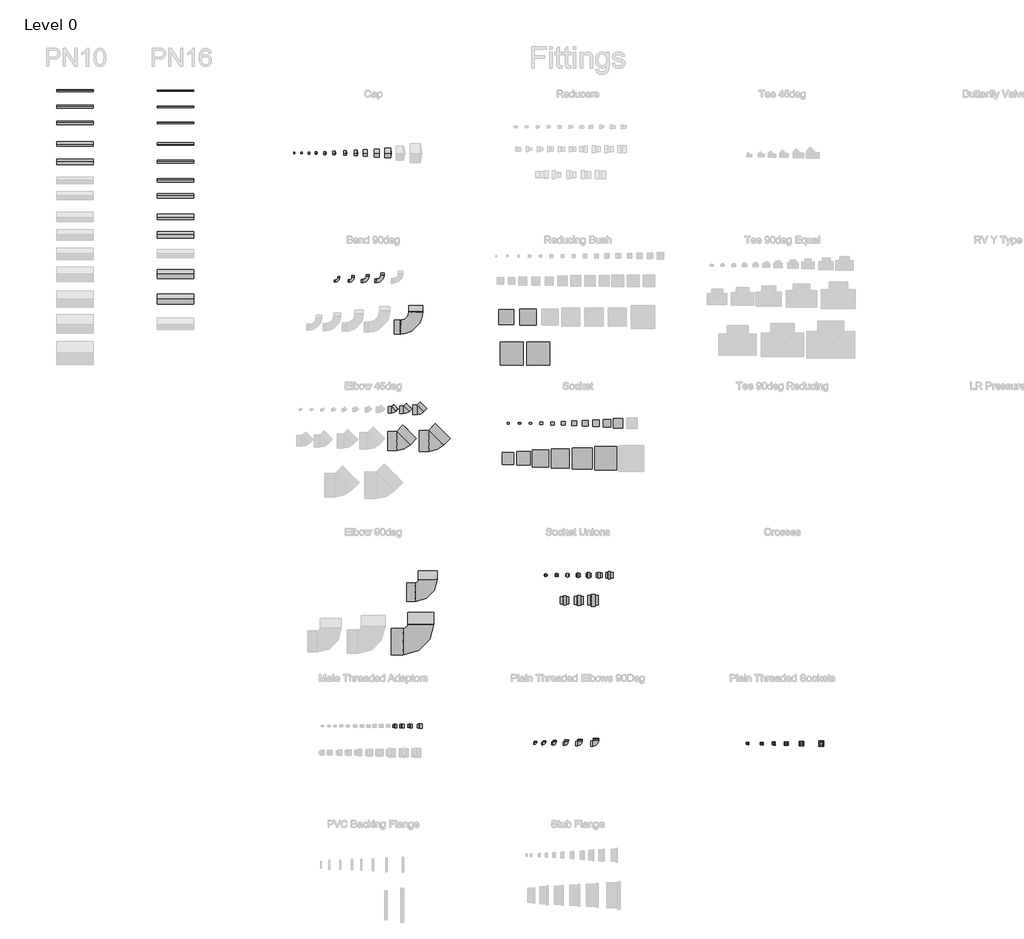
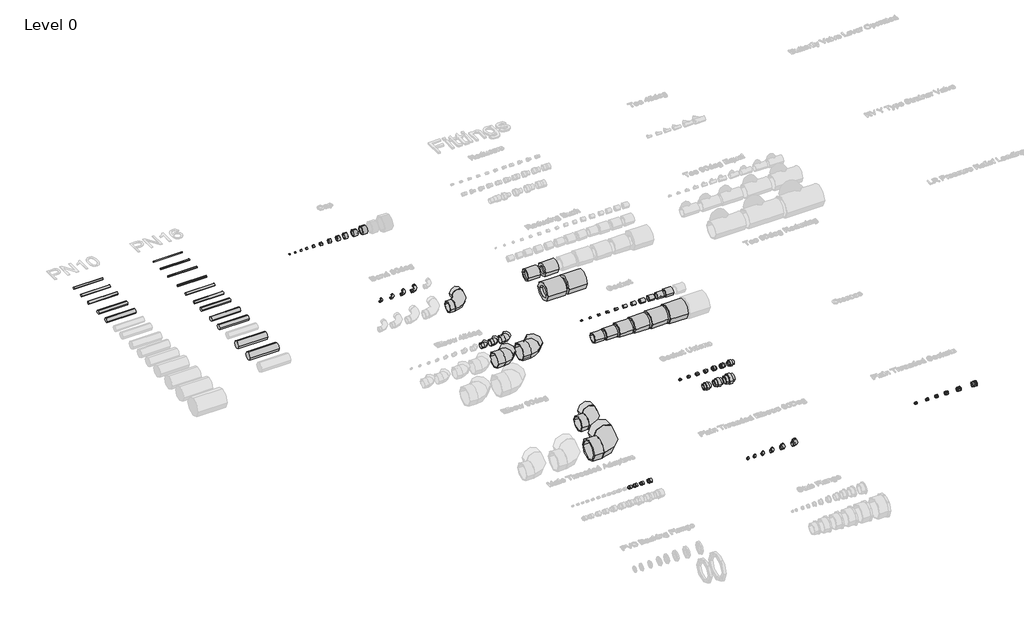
# One storey, part 2 of 12: 86 pipe fittings.
"""IFC4 building model written with IfcOpenShell, lengths in millimetres."""

from ifc_helpers import new_model, si_unit, point, frame, frame_2d, origin, place, context, project, spatial, circle_curve, trimmed, segment, composite_curve, outline, extrude, transform, mapped, element, save
from components import pipe_fitting_00c68761, pipe_fitting_222d3f3d, pipe_fitting_d2d7d88c, pipe_fitting_749d7ce6, pipe_fitting_20mm_7dde9f8e, pipe_fitting_20mm_adb13d9c, pipe_fitting_25mm_f7139507, pipe_fitting_25mm_9b53985b, pipe_fitting_32mm_0fd3095c, pipe_fitting_32mm_a54fa4ee, pipe_fitting_40mm_dacfa39e, pipe_fitting_40mm_57a51237, pipe_fitting_50mm_d2743dc3, pipe_fitting_50mm_ae8cc832, pipe_fitting_63mm_69d4c0ef, pipe_fitting_63mm_4394316e, standard_d3fcaca8, standard_e8015140, standard_f11ee998, standard_07521f27, standard_a297ac4e, standard_ac86aa57, standard_49e3cc04, standard_f3d50f89, standard_ac4fea29, standard_8bf5e5c2, standard_d882ee41, standard_5b41f391, standard_4a92fde6, standard_6448b392, standard_bcb89aef, standard_607f699d, standard_16ee4b1b, standard_b4a90c16, standard_7091a6f5, standard_e8098f89, standard_3f4e5612, standard_c417ec94, standard_f8321bba, standard_0ccd5c58, standard_5e441faa, standard_31ae7f76, standard_5340aa7b, standard_19b72cd3, standard_9e7f003c, standard_99bdedc1, standard_309a048a, standard_23844ad6, standard_ca9f6d66, standard_ecdbaece, standard_c2283256, standard_cd4ecaba, standard_84c32fe4, standard_e92a946d, standard_4b9ebe76, standard_8b6c582c, standard_3ef27521, standard_74011e48, standard_06543b70, standard_79d2ad80, standard_54c42cd6, standard_19096138, standard_dfd1eef8, standard_3389f363, standard_4a5e7ea4, standard_03295fe6, standard_e9653782, standard_6b13ad6d, standard_f582b1da, standard_c68ea25f

model = new_model("IFC4")

# Units and contexts
model_context = context("Model", 3, world=origin())
ifc_project = project(units=[si_unit("LENGTHUNIT", "METRE", prefix="MILLI")], contexts=[model_context])

# Site, building, storey
site = spatial("IfcSite", under=ifc_project)
building = spatial("IfcBuilding", under=site)
storey = spatial("IfcBuildingStorey", under=building, Name="Level 0", Elevation=0.0)

# Pipe fittings
placement = place(None, origin())
pipe_fitting_shape = pipe_fitting_00c68761(model_context)
element("IfcPipeFitting", 1, ObjectType="Durapipe_PipeFitting_PVC_MaleThreadedAdaptors : 50 x 40 x G1", at=placement, inside=storey, context=model_context, shape_type="MappedRepresentation", body=[
    mapped(pipe_fitting_shape, transform((-15945.5809753, 336.5620017, 0.0), x_axis=(1.0, 0.0, 0.0), y_axis=(0.0, 1.0, 0.0), z_axis=(0.0, 0.0, 1.0))),
])
pipe_fitting_2_shape = pipe_fitting_222d3f3d(model_context)
element("IfcPipeFitting", 2, ObjectType="Durapipe_PipeFitting_PVC_MaleThreadedAdaptors : 50 x 40 x G1-1⁄4", at=placement, inside=storey, context=model_context, shape_type="MappedRepresentation", body=[
    mapped(pipe_fitting_2_shape, transform((-15733.9409048, 336.5620017, 0.0), x_axis=(1.0, 0.0, 0.0), y_axis=(0.0, 1.0, 0.0), z_axis=(0.0, 0.0, 1.0))),
])
pipe_fitting_3_shape = pipe_fitting_d2d7d88c(model_context)
element("IfcPipeFitting", 3, ObjectType="Durapipe_PipeFitting_PVC_MaleThreadedAdaptors : 50 x 40 x G1-1⁄2", at=placement, inside=storey, context=model_context, shape_type="MappedRepresentation", body=[
    mapped(pipe_fitting_3_shape, transform((-15844.0278769, 336.5620017, 0.0), x_axis=(1.0, 0.0, 0.0), y_axis=(0.0, 1.0, 0.0), z_axis=(0.0, 0.0, 1.0))),
])
pipe_fitting_4_shape = pipe_fitting_749d7ce6(model_context)
element("IfcPipeFitting", 4, ObjectType="Durapipe_PipeFitting_PVC_MaleThreadedAdaptors : 63 x 50 x G1-1⁄2", at=placement, inside=storey, context=model_context, shape_type="MappedRepresentation", body=[
    mapped(pipe_fitting_4_shape, transform((-15604.2911816, 336.5620017, 0.0), x_axis=(1.0, 0.0, 0.0), y_axis=(0.0, 1.0, 0.0), z_axis=(0.0, 0.0, 1.0))),
])
pipe_fitting_20mm_shape = pipe_fitting_20mm_7dde9f8e(model_context)
element("IfcPipeFitting", 5, ObjectType="Durapipe_PipeFitting_PVC_PlainThreadedElbows90Deg : 20mm", at=placement, inside=storey, context=model_context, shape_type="MappedRepresentation", body=[
    mapped(pipe_fitting_20mm_shape, transform((-14015.5543981, 96.5620017, 0.0), x_axis=(1.0, 0.0, 0.0), y_axis=(0.0, 1.0, 0.0), z_axis=(0.0, 0.0, 1.0))),
])
pipe_fitting_20mm_2_shape = pipe_fitting_20mm_adb13d9c(model_context)
element("IfcPipeFitting", 6, ObjectType="Durapipe_PipeFitting_PVC_PlainThreadedSockets : 20mm", at=placement, inside=storey, context=model_context, shape_type="MappedRepresentation", body=[
    mapped(pipe_fitting_20mm_2_shape, transform((-11115.3237368, 96.5620017, 0.0), x_axis=(1.0, 0.0, 0.0), y_axis=(0.0, 1.0, 0.0), z_axis=(0.0, 0.0, 1.0))),
])
pipe_fitting_25mm_shape = pipe_fitting_25mm_f7139507(model_context)
element("IfcPipeFitting", 7, ObjectType="Durapipe_PipeFitting_PVC_PlainThreadedElbows90Deg : 25mm", at=placement, inside=storey, context=model_context, shape_type="MappedRepresentation", body=[
    mapped(pipe_fitting_25mm_shape, transform((-13895.5433943, 96.5620017, 0.0), x_axis=(1.0, 0.0, 0.0), y_axis=(0.0, 1.0, 0.0), z_axis=(0.0, 0.0, 1.0))),
])
pipe_fitting_25mm_2_shape = pipe_fitting_25mm_9b53985b(model_context)
element("IfcPipeFitting", 8, ObjectType="Durapipe_PipeFitting_PVC_PlainThreadedSockets : 25mm", at=placement, inside=storey, context=model_context, shape_type="MappedRepresentation", body=[
    mapped(pipe_fitting_25mm_2_shape, transform((-10918.4809078, 96.5620017, 0.0), x_axis=(1.0, 0.0, 0.0), y_axis=(0.0, 1.0, 0.0), z_axis=(0.0, 0.0, 1.0))),
])
pipe_fitting_32mm_shape = pipe_fitting_32mm_0fd3095c(model_context)
element("IfcPipeFitting", 9, ObjectType="Durapipe_PipeFitting_PVC_PlainThreadedElbows90Deg : 32mm", at=placement, inside=storey, context=model_context, shape_type="MappedRepresentation", body=[
    mapped(pipe_fitting_32mm_shape, transform((-13753.1369086, 96.5620017, 0.0), x_axis=(1.0, 0.0, 0.0), y_axis=(0.0, 1.0, 0.0), z_axis=(0.0, 0.0, 1.0))),
])
pipe_fitting_32mm_2_shape = pipe_fitting_32mm_a54fa4ee(model_context)
element("IfcPipeFitting", 10, ObjectType="Durapipe_PipeFitting_PVC_PlainThreadedSockets : 32mm", at=placement, inside=storey, context=model_context, shape_type="MappedRepresentation", body=[
    mapped(pipe_fitting_32mm_2_shape, transform((-10755.038935, 96.5620017, 0.0), x_axis=(1.0, 0.0, 0.0), y_axis=(0.0, 1.0, 0.0), z_axis=(0.0, 0.0, 1.0))),
])
pipe_fitting_40mm_shape = pipe_fitting_40mm_dacfa39e(model_context)
element("IfcPipeFitting", 11, ObjectType="Durapipe_PipeFitting_PVC_PlainThreadedElbows90Deg : 40mm", at=placement, inside=storey, context=model_context, shape_type="MappedRepresentation", body=[
    mapped(pipe_fitting_40mm_shape, transform((-13589.9522953, 96.5620017, 0.0), x_axis=(1.0, 0.0, 0.0), y_axis=(0.0, 1.0, 0.0), z_axis=(0.0, 0.0, 1.0))),
])
pipe_fitting_40mm_2_shape = pipe_fitting_40mm_57a51237(model_context)
element("IfcPipeFitting", 12, ObjectType="Durapipe_PipeFitting_PVC_PlainThreadedSockets : 40mm", at=placement, inside=storey, context=model_context, shape_type="MappedRepresentation", body=[
    mapped(pipe_fitting_40mm_2_shape, transform((-10580.2468253, 96.5620017, 0.0), x_axis=(1.0, 0.0, 0.0), y_axis=(0.0, 1.0, 0.0), z_axis=(0.0, 0.0, 1.0))),
])
pipe_fitting_50mm_shape = pipe_fitting_50mm_d2743dc3(model_context)
element("IfcPipeFitting", 13, ObjectType="Durapipe_PipeFitting_PVC_PlainThreadedElbows90Deg : 50mm", at=placement, inside=storey, context=model_context, shape_type="MappedRepresentation", body=[
    mapped(pipe_fitting_50mm_shape, transform((-13404.5054025, 96.5620017, 0.0), x_axis=(1.0, 0.0, 0.0), y_axis=(0.0, 1.0, 0.0), z_axis=(0.0, 0.0, 1.0))),
])
pipe_fitting_50mm_2_shape = pipe_fitting_50mm_ae8cc832(model_context)
element("IfcPipeFitting", 14, ObjectType="Durapipe_PipeFitting_PVC_PlainThreadedSockets : 50mm", at=placement, inside=storey, context=model_context, shape_type="MappedRepresentation", body=[
    mapped(pipe_fitting_50mm_2_shape, transform((-10369.1342771, 96.5620017, 0.0), x_axis=(1.0, 0.0, 0.0), y_axis=(0.0, 1.0, 0.0), z_axis=(0.0, 0.0, 1.0))),
])
pipe_fitting_63mm_shape = pipe_fitting_63mm_69d4c0ef(model_context)
element("IfcPipeFitting", 15, ObjectType="Durapipe_PipeFitting_PVC_PlainThreadedElbows90Deg : 63mm", at=placement, inside=storey, context=model_context, shape_type="MappedRepresentation", body=[
    mapped(pipe_fitting_63mm_shape, transform((-13190.2694798, 96.5620017, 0.0), x_axis=(1.0, 0.0, 0.0), y_axis=(0.0, 1.0, 0.0), z_axis=(0.0, 0.0, 1.0))),
])
pipe_fitting_63mm_2_shape = pipe_fitting_63mm_4394316e(model_context)
element("IfcPipeFitting", 16, ObjectType="Durapipe_PipeFitting_PVC_PlainThreadedSockets : 63mm", at=placement, inside=storey, context=model_context, shape_type="MappedRepresentation", body=[
    mapped(pipe_fitting_63mm_2_shape, transform((-10099.0010165, 96.5620017, 0.0), x_axis=(1.0, 0.0, 0.0), y_axis=(0.0, 1.0, 0.0), z_axis=(0.0, 0.0, 1.0))),
])
element("IfcPipeFitting", 17, ObjectType="PN10", at=placement, inside=storey, context=model_context, shape_type="SweptSolid", body=[
    extrude(outline(composite_curve([segment(trimmed(circle_curve(frame_2d((9035.7253457, 0.0)), 16.0), [point((9019.7253457, 0.0))], [point((9035.7253457, 16.0))], False, "CARTESIAN"), True, "CONTINUOUS"), segment(trimmed(circle_curve(frame_2d((9035.7253457, 0.0)), 16.0), [point((9035.7253457, 16.0))], [point((9051.7253457, 0.0))], False, "CARTESIAN"), True, "CONTINUOUS"), segment(trimmed(circle_curve(frame_2d((9035.7253457, 0.0)), 16.0), [point((9051.7253457, 0.0))], [point((9035.7253457, -16.0))], False, "CARTESIAN"), True, "CONTINUOUS"), segment(trimmed(circle_curve(frame_2d((9035.7253457, 0.0)), 16.0), [point((9035.7253457, -16.0))], [point((9019.7253457, 0.0))], False, "CARTESIAN"), True, "CONTINUOUS")], self_intersect=False)), frame((-20572.2564371, 0.0, 0.0), z_axis=(1.0, 0.0, 0.0), x_axis=(0.0, 1.0, 0.0)), (0.0, 0.0, 1.0), 500.0),
])
element("IfcPipeFitting", 18, ObjectType="PN10", at=placement, inside=storey, context=model_context, shape_type="SweptSolid", body=[
    extrude(outline(composite_curve([segment(trimmed(circle_curve(frame_2d((8815.7253457, 0.0)), 20.0), [point((8795.7253457, 0.0))], [point((8815.7253457, 20.0))], False, "CARTESIAN"), True, "CONTINUOUS"), segment(trimmed(circle_curve(frame_2d((8815.7253457, 0.0)), 20.0), [point((8815.7253457, 20.0))], [point((8835.7253457, 0.0))], False, "CARTESIAN"), True, "CONTINUOUS"), segment(trimmed(circle_curve(frame_2d((8815.7253457, 0.0)), 20.0), [point((8835.7253457, 0.0))], [point((8815.7253457, -20.0))], False, "CARTESIAN"), True, "CONTINUOUS"), segment(trimmed(circle_curve(frame_2d((8815.7253457, 0.0)), 20.0), [point((8815.7253457, -20.0))], [point((8795.7253457, 0.0))], False, "CARTESIAN"), True, "CONTINUOUS")], self_intersect=False)), frame((-20572.2564371, 0.0, 0.0), z_axis=(1.0, 0.0, 0.0), x_axis=(0.0, 1.0, 0.0)), (0.0, 0.0, 1.0), 500.0),
])
element("IfcPipeFitting", 19, ObjectType="PN10", at=placement, inside=storey, context=model_context, shape_type="SweptSolid", body=[
    extrude(outline(composite_curve([segment(trimmed(circle_curve(frame_2d((8595.7253457, 0.0)), 25.0), [point((8570.7253457, 0.0))], [point((8595.7253457, 25.0))], False, "CARTESIAN"), True, "CONTINUOUS"), segment(trimmed(circle_curve(frame_2d((8595.7253457, 0.0)), 25.0), [point((8595.7253457, 25.0))], [point((8620.7253457, 0.0))], False, "CARTESIAN"), True, "CONTINUOUS"), segment(trimmed(circle_curve(frame_2d((8595.7253457, 0.0)), 25.0), [point((8620.7253457, 0.0))], [point((8595.7253457, -25.0))], False, "CARTESIAN"), True, "CONTINUOUS"), segment(trimmed(circle_curve(frame_2d((8595.7253457, 0.0)), 25.0), [point((8595.7253457, -25.0))], [point((8570.7253457, 0.0))], False, "CARTESIAN"), True, "CONTINUOUS")], self_intersect=False)), frame((-20572.2564371, 0.0, 0.0), z_axis=(1.0, 0.0, 0.0), x_axis=(0.0, 1.0, 0.0)), (0.0, 0.0, 1.0), 500.0),
])
element("IfcPipeFitting", 20, ObjectType="PN10", at=placement, inside=storey, context=model_context, shape_type="SweptSolid", body=[
    extrude(outline(composite_curve([segment(trimmed(circle_curve(frame_2d((8305.7253457, 0.0)), 31.5), [point((8274.2253457, 0.0))], [point((8305.7253457, 31.5))], False, "CARTESIAN"), True, "CONTINUOUS"), segment(trimmed(circle_curve(frame_2d((8305.7253457, 0.0)), 31.5), [point((8305.7253457, 31.5))], [point((8337.2253457, 0.0))], False, "CARTESIAN"), True, "CONTINUOUS"), segment(trimmed(circle_curve(frame_2d((8305.7253457, 0.0)), 31.5), [point((8337.2253457, 0.0))], [point((8305.7253457, -31.5))], False, "CARTESIAN"), True, "CONTINUOUS"), segment(trimmed(circle_curve(frame_2d((8305.7253457, 0.0)), 31.5), [point((8305.7253457, -31.5))], [point((8274.2253457, 0.0))], False, "CARTESIAN"), True, "CONTINUOUS")], self_intersect=False)), frame((-20572.2564371, 0.0, 0.0), z_axis=(1.0, 0.0, 0.0), x_axis=(0.0, 1.0, 0.0)), (0.0, 0.0, 1.0), 500.0),
])
element("IfcPipeFitting", 21, ObjectType="PN10", at=placement, inside=storey, context=model_context, shape_type="SweptSolid", body=[
    extrude(outline(composite_curve([segment(trimmed(circle_curve(frame_2d((8062.7253457, 0.0)), 37.5), [point((8025.2253457, 0.0))], [point((8062.7253457, 37.5))], False, "CARTESIAN"), True, "CONTINUOUS"), segment(trimmed(circle_curve(frame_2d((8062.7253457, 0.0)), 37.5), [point((8062.7253457, 37.5))], [point((8100.2253457, 0.0))], False, "CARTESIAN"), True, "CONTINUOUS"), segment(trimmed(circle_curve(frame_2d((8062.7253457, 0.0)), 37.5), [point((8100.2253457, 0.0))], [point((8062.7253457, -37.5))], False, "CARTESIAN"), True, "CONTINUOUS"), segment(trimmed(circle_curve(frame_2d((8062.7253457, 0.0)), 37.5), [point((8062.7253457, -37.5))], [point((8025.2253457, 0.0))], False, "CARTESIAN"), True, "CONTINUOUS")], self_intersect=False)), frame((-20572.2564371, 0.0, 0.0), z_axis=(1.0, 0.0, 0.0), x_axis=(0.0, 1.0, 0.0)), (0.0, 0.0, 1.0), 500.0),
])
element("IfcPipeFitting", 22, ObjectType="PN16", at=placement, inside=storey, context=model_context, shape_type="SweptSolid", body=[
    extrude(outline(composite_curve([segment(trimmed(circle_curve(frame_2d((8815.7253457, 0.0)), 10.0), [point((8805.7253457, 0.0))], [point((8815.7253457, 10.0))], False, "CARTESIAN"), True, "CONTINUOUS"), segment(trimmed(circle_curve(frame_2d((8815.7253457, 0.0)), 10.0), [point((8815.7253457, 10.0))], [point((8825.7253457, 0.0))], False, "CARTESIAN"), True, "CONTINUOUS"), segment(trimmed(circle_curve(frame_2d((8815.7253457, 0.0)), 10.0), [point((8825.7253457, 0.0))], [point((8815.7253457, -10.0))], False, "CARTESIAN"), True, "CONTINUOUS"), segment(trimmed(circle_curve(frame_2d((8815.7253457, 0.0)), 10.0), [point((8815.7253457, -10.0))], [point((8805.7253457, 0.0))], False, "CARTESIAN"), True, "CONTINUOUS")], self_intersect=False)), frame((-19191.3558768, 0.0, 0.0), z_axis=(1.0, 0.0, 0.0), x_axis=(0.0, 1.0, 0.0)), (0.0, 0.0, 1.0), 500.0),
])
element("IfcPipeFitting", 23, ObjectType="PN16", at=placement, inside=storey, context=model_context, shape_type="SweptSolid", body=[
    extrude(outline(composite_curve([segment(trimmed(circle_curve(frame_2d((8595.7253457, 0.0)), 12.5), [point((8583.2253457, 0.0))], [point((8595.7253457, 12.5))], False, "CARTESIAN"), True, "CONTINUOUS"), segment(trimmed(circle_curve(frame_2d((8595.7253457, 0.0)), 12.5), [point((8595.7253457, 12.5))], [point((8608.2253457, 0.0))], False, "CARTESIAN"), True, "CONTINUOUS"), segment(trimmed(circle_curve(frame_2d((8595.7253457, 0.0)), 12.5), [point((8608.2253457, 0.0))], [point((8595.7253457, -12.5))], False, "CARTESIAN"), True, "CONTINUOUS"), segment(trimmed(circle_curve(frame_2d((8595.7253457, 0.0)), 12.5), [point((8595.7253457, -12.5))], [point((8583.2253457, 0.0))], False, "CARTESIAN"), True, "CONTINUOUS")], self_intersect=False)), frame((-19191.3558768, 0.0, 0.0), z_axis=(1.0, 0.0, 0.0), x_axis=(0.0, 1.0, 0.0)), (0.0, 0.0, 1.0), 500.0),
])
element("IfcPipeFitting", 24, ObjectType="PN16", at=placement, inside=storey, context=model_context, shape_type="SweptSolid", body=[
    extrude(outline(composite_curve([segment(trimmed(circle_curve(frame_2d((8305.7253457, 0.0)), 16.0), [point((8289.7253457, 0.0))], [point((8305.7253457, 16.0))], False, "CARTESIAN"), True, "CONTINUOUS"), segment(trimmed(circle_curve(frame_2d((8305.7253457, 0.0)), 16.0), [point((8305.7253457, 16.0))], [point((8321.7253457, 0.0))], False, "CARTESIAN"), True, "CONTINUOUS"), segment(trimmed(circle_curve(frame_2d((8305.7253457, 0.0)), 16.0), [point((8321.7253457, 0.0))], [point((8305.7253457, -16.0))], False, "CARTESIAN"), True, "CONTINUOUS"), segment(trimmed(circle_curve(frame_2d((8305.7253457, 0.0)), 16.0), [point((8305.7253457, -16.0))], [point((8289.7253457, 0.0))], False, "CARTESIAN"), True, "CONTINUOUS")], self_intersect=False)), frame((-19191.3558768, 0.0, 0.0), z_axis=(1.0, 0.0, 0.0), x_axis=(0.0, 1.0, 0.0)), (0.0, 0.0, 1.0), 500.0),
])
element("IfcPipeFitting", 25, ObjectType="PN16", at=placement, inside=storey, context=model_context, shape_type="SweptSolid", body=[
    extrude(outline(composite_curve([segment(trimmed(circle_curve(frame_2d((8062.7253457, 0.0)), 20.0), [point((8042.7253457, 0.0))], [point((8062.7253457, 20.0))], False, "CARTESIAN"), True, "CONTINUOUS"), segment(trimmed(circle_curve(frame_2d((8062.7253457, 0.0)), 20.0), [point((8062.7253457, 20.0))], [point((8082.7253457, 0.0))], False, "CARTESIAN"), True, "CONTINUOUS"), segment(trimmed(circle_curve(frame_2d((8062.7253457, 0.0)), 20.0), [point((8082.7253457, 0.0))], [point((8062.7253457, -20.0))], False, "CARTESIAN"), True, "CONTINUOUS"), segment(trimmed(circle_curve(frame_2d((8062.7253457, 0.0)), 20.0), [point((8062.7253457, -20.0))], [point((8042.7253457, 0.0))], False, "CARTESIAN"), True, "CONTINUOUS")], self_intersect=False)), frame((-19191.3558768, 0.0, 0.0), z_axis=(1.0, 0.0, 0.0), x_axis=(0.0, 1.0, 0.0)), (0.0, 0.0, 1.0), 500.0),
])
element("IfcPipeFitting", 26, ObjectType="PN16", at=placement, inside=storey, context=model_context, shape_type="SweptSolid", body=[
    extrude(outline(composite_curve([segment(trimmed(circle_curve(frame_2d((7807.7253457, 0.0)), 25.0), [point((7782.7253457, 0.0))], [point((7807.7253457, 25.0))], False, "CARTESIAN"), True, "CONTINUOUS"), segment(trimmed(circle_curve(frame_2d((7807.7253457, 0.0)), 25.0), [point((7807.7253457, 25.0))], [point((7832.7253457, 0.0))], False, "CARTESIAN"), True, "CONTINUOUS"), segment(trimmed(circle_curve(frame_2d((7807.7253457, 0.0)), 25.0), [point((7832.7253457, 0.0))], [point((7807.7253457, -25.0))], False, "CARTESIAN"), True, "CONTINUOUS"), segment(trimmed(circle_curve(frame_2d((7807.7253457, 0.0)), 25.0), [point((7807.7253457, -25.0))], [point((7782.7253457, 0.0))], False, "CARTESIAN"), True, "CONTINUOUS")], self_intersect=False)), frame((-19191.3558768, 0.0, 0.0), z_axis=(1.0, 0.0, 0.0), x_axis=(0.0, 1.0, 0.0)), (0.0, 0.0, 1.0), 500.0),
])
element("IfcPipeFitting", 27, ObjectType="PN16", at=placement, inside=storey, context=model_context, shape_type="SweptSolid", body=[
    extrude(outline(composite_curve([segment(trimmed(circle_curve(frame_2d((7597.7253457, 0.0)), 31.5), [point((7566.2253457, 0.0))], [point((7597.7253457, 31.5))], False, "CARTESIAN"), True, "CONTINUOUS"), segment(trimmed(circle_curve(frame_2d((7597.7253457, 0.0)), 31.5), [point((7597.7253457, 31.5))], [point((7629.2253457, 0.0))], False, "CARTESIAN"), True, "CONTINUOUS"), segment(trimmed(circle_curve(frame_2d((7597.7253457, 0.0)), 31.5), [point((7629.2253457, 0.0))], [point((7597.7253457, -31.5))], False, "CARTESIAN"), True, "CONTINUOUS"), segment(trimmed(circle_curve(frame_2d((7597.7253457, 0.0)), 31.5), [point((7597.7253457, -31.5))], [point((7566.2253457, 0.0))], False, "CARTESIAN"), True, "CONTINUOUS")], self_intersect=False)), frame((-19191.3558768, 0.0, 0.0), z_axis=(1.0, 0.0, 0.0), x_axis=(0.0, 1.0, 0.0)), (0.0, 0.0, 1.0), 500.0),
])
element("IfcPipeFitting", 28, ObjectType="PN16", at=placement, inside=storey, context=model_context, shape_type="SweptSolid", body=[
    extrude(outline(composite_curve([segment(trimmed(circle_curve(frame_2d((7307.7253457, 0.0)), 37.5), [point((7270.2253457, 0.0))], [point((7307.7253457, 37.5))], False, "CARTESIAN"), True, "CONTINUOUS"), segment(trimmed(circle_curve(frame_2d((7307.7253457, 0.0)), 37.5), [point((7307.7253457, 37.5))], [point((7345.2253457, 0.0))], False, "CARTESIAN"), True, "CONTINUOUS"), segment(trimmed(circle_curve(frame_2d((7307.7253457, 0.0)), 37.5), [point((7345.2253457, 0.0))], [point((7307.7253457, -37.5))], False, "CARTESIAN"), True, "CONTINUOUS"), segment(trimmed(circle_curve(frame_2d((7307.7253457, 0.0)), 37.5), [point((7307.7253457, -37.5))], [point((7270.2253457, 0.0))], False, "CARTESIAN"), True, "CONTINUOUS")], self_intersect=False)), frame((-19191.3558768, 0.0, 0.0), z_axis=(1.0, 0.0, 0.0), x_axis=(0.0, 1.0, 0.0)), (0.0, 0.0, 1.0), 500.0),
])
element("IfcPipeFitting", 29, ObjectType="PN16", at=placement, inside=storey, context=model_context, shape_type="SweptSolid", body=[
    extrude(outline(composite_curve([segment(trimmed(circle_curve(frame_2d((7062.7253457, 0.0)), 45.0), [point((7017.7253457, 0.0))], [point((7062.7253457, 45.0))], False, "CARTESIAN"), True, "CONTINUOUS"), segment(trimmed(circle_curve(frame_2d((7062.7253457, 0.0)), 45.0), [point((7062.7253457, 45.0))], [point((7107.7253457, 0.0))], False, "CARTESIAN"), True, "CONTINUOUS"), segment(trimmed(circle_curve(frame_2d((7062.7253457, 0.0)), 45.0), [point((7107.7253457, 0.0))], [point((7062.7253457, -45.0))], False, "CARTESIAN"), True, "CONTINUOUS"), segment(trimmed(circle_curve(frame_2d((7062.7253457, 0.0)), 45.0), [point((7062.7253457, -45.0))], [point((7017.7253457, 0.0))], False, "CARTESIAN"), True, "CONTINUOUS")], self_intersect=False)), frame((-19191.3558768, 0.0, 0.0), z_axis=(1.0, 0.0, 0.0), x_axis=(0.0, 1.0, 0.0)), (0.0, 0.0, 1.0), 500.0),
])
element("IfcPipeFitting", 30, ObjectType="PN16", at=placement, inside=storey, context=model_context, shape_type="SweptSolid", body=[
    extrude(outline(composite_curve([segment(trimmed(circle_curve(frame_2d((6522.7253457, 0.0)), 62.5), [point((6460.2253457, 0.0))], [point((6522.7253457, 62.5))], False, "CARTESIAN"), True, "CONTINUOUS"), segment(trimmed(circle_curve(frame_2d((6522.7253457, 0.0)), 62.5), [point((6522.7253457, 62.5))], [point((6585.2253457, 0.0))], False, "CARTESIAN"), True, "CONTINUOUS"), segment(trimmed(circle_curve(frame_2d((6522.7253457, 0.0)), 62.5), [point((6585.2253457, 0.0))], [point((6522.7253457, -62.5))], False, "CARTESIAN"), True, "CONTINUOUS"), segment(trimmed(circle_curve(frame_2d((6522.7253457, 0.0)), 62.5), [point((6522.7253457, -62.5))], [point((6460.2253457, 0.0))], False, "CARTESIAN"), True, "CONTINUOUS")], self_intersect=False)), frame((-19191.3558768, 0.0, 0.0), z_axis=(1.0, 0.0, 0.0), x_axis=(0.0, 1.0, 0.0)), (0.0, 0.0, 1.0), 500.0),
])
element("IfcPipeFitting", 31, ObjectType="PN16", at=placement, inside=storey, context=model_context, shape_type="SweptSolid", body=[
    extrude(outline(composite_curve([segment(trimmed(circle_curve(frame_2d((6182.7253457, 0.0)), 70.0), [point((6112.7253457, 0.0))], [point((6182.7253457, 70.0))], False, "CARTESIAN"), True, "CONTINUOUS"), segment(trimmed(circle_curve(frame_2d((6182.7253457, 0.0)), 70.0), [point((6182.7253457, 70.0))], [point((6252.7253457, 0.0))], False, "CARTESIAN"), True, "CONTINUOUS"), segment(trimmed(circle_curve(frame_2d((6182.7253457, 0.0)), 70.0), [point((6252.7253457, 0.0))], [point((6182.7253457, -70.0))], False, "CARTESIAN"), True, "CONTINUOUS"), segment(trimmed(circle_curve(frame_2d((6182.7253457, 0.0)), 70.0), [point((6182.7253457, -70.0))], [point((6112.7253457, 0.0))], False, "CARTESIAN"), True, "CONTINUOUS")], self_intersect=False)), frame((-19191.3558768, 0.0, 0.0), z_axis=(1.0, 0.0, 0.0), x_axis=(0.0, 1.0, 0.0)), (0.0, 0.0, 1.0), 500.0),
])
element("IfcPipeFitting", 32, ObjectType="PN16", at=placement, inside=storey, context=model_context, shape_type="SweptSolid", body=[
    extrude(outline(composite_curve([segment(trimmed(circle_curve(frame_2d((9035.7253457, 0.0)), 8.0), [point((9027.7253457, 0.0))], [point((9035.7253457, 8.0))], False, "CARTESIAN"), True, "CONTINUOUS"), segment(trimmed(circle_curve(frame_2d((9035.7253457, 0.0)), 8.0), [point((9035.7253457, 8.0))], [point((9043.7253457, 0.0))], False, "CARTESIAN"), True, "CONTINUOUS"), segment(trimmed(circle_curve(frame_2d((9035.7253457, 0.0)), 8.0), [point((9043.7253457, 0.0))], [point((9035.7253457, -8.0))], False, "CARTESIAN"), True, "CONTINUOUS"), segment(trimmed(circle_curve(frame_2d((9035.7253457, 0.0)), 8.0), [point((9035.7253457, -8.0))], [point((9027.7253457, 0.0))], False, "CARTESIAN"), True, "CONTINUOUS")], self_intersect=False)), frame((-19191.3558768, 0.0, 0.0), z_axis=(1.0, 0.0, 0.0), x_axis=(0.0, 1.0, 0.0)), (0.0, 0.0, 1.0), 500.0),
])
standard_shape = standard_d3fcaca8(model_context)
element("IfcPipeFitting", 33, ObjectType="Durapipe_PipeFitting_PVC_ReducingBush : Standard", at=placement, inside=storey, context=model_context, shape_type="MappedRepresentation", body=[
    mapped(standard_shape, transform((-14497.197715, 5935.7253457, 0.0), x_axis=(1.0, 0.0, 0.0), y_axis=(0.0, 1.0, 0.0), z_axis=(0.0, 0.0, 1.0))),
])
standard_2_shape = standard_e8015140(model_context)
element("IfcPipeFitting", 34, ObjectType="Durapipe_PipeFitting_PVC_ReducingBush : Standard", at=placement, inside=storey, context=model_context, shape_type="MappedRepresentation", body=[
    mapped(standard_2_shape, transform((-14199.9465761, 5935.7253457, 0.0), x_axis=(1.0, 0.0, 0.0), y_axis=(0.0, 1.0, 0.0), z_axis=(0.0, 0.0, 1.0))),
])
standard_3_shape = standard_f11ee998(model_context)
element("IfcPipeFitting", 35, ObjectType="Durapipe_PipeFitting_PVC_ReducingBush : Standard", at=placement, inside=storey, context=model_context, shape_type="MappedRepresentation", body=[
    mapped(standard_3_shape, transform((-14456.3193229, 5435.0210373, 0.0), x_axis=(1.0, 0.0, 0.0), y_axis=(0.0, 1.0, 0.0), z_axis=(0.0, 0.0, 1.0))),
])
standard_4_shape = standard_07521f27(model_context)
element("IfcPipeFitting", 36, ObjectType="Durapipe_PipeFitting_PVC_ReducingBush : Standard", at=placement, inside=storey, context=model_context, shape_type="MappedRepresentation", body=[
    mapped(standard_4_shape, transform((-14106.3193229, 5435.0210373, 0.0), x_axis=(1.0, 0.0, 0.0), y_axis=(0.0, 1.0, 0.0), z_axis=(0.0, 0.0, 1.0))),
])
standard_5_shape = standard_a297ac4e(model_context)
element("IfcPipeFitting", 37, ObjectType="Durapipe_PipeFitting_PVC_Socket : Standard", at=placement, inside=storey, context=model_context, shape_type="MappedRepresentation", body=[
    mapped(standard_5_shape, transform((-14386.6083844, 4481.0869006, 0.0), x_axis=(1.0, 0.0, 0.0), y_axis=(0.0, 1.0, 0.0), z_axis=(0.0, 0.0, 1.0))),
])
standard_6_shape = standard_ac86aa57(model_context)
element("IfcPipeFitting", 38, ObjectType="Durapipe_PipeFitting_PVC_Socket : Standard", at=placement, inside=storey, context=model_context, shape_type="MappedRepresentation", body=[
    mapped(standard_6_shape, transform((-14086.6083844, 4481.0869006, 0.0), x_axis=(1.0, 0.0, 0.0), y_axis=(0.0, 1.0, 0.0), z_axis=(0.0, 0.0, 1.0))),
])
standard_7_shape = standard_49e3cc04(model_context)
element("IfcPipeFitting", 39, ObjectType="Durapipe_PipeFitting_PVC_Socket : Standard", at=placement, inside=storey, context=model_context, shape_type="MappedRepresentation", body=[
    mapped(standard_7_shape, transform((-13936.6083844, 4481.0869006, 0.0), x_axis=(1.0, 0.0, 0.0), y_axis=(0.0, 1.0, 0.0), z_axis=(0.0, 0.0, 1.0))),
])
standard_8_shape = standard_f3d50f89(model_context)
element("IfcPipeFitting", 40, ObjectType="Durapipe_PipeFitting_PVC_Socket : Standard", at=placement, inside=storey, context=model_context, shape_type="MappedRepresentation", body=[
    mapped(standard_8_shape, transform((-13786.6083844, 4481.0869006, 0.0), x_axis=(1.0, 0.0, 0.0), y_axis=(0.0, 1.0, 0.0), z_axis=(0.0, 0.0, 1.0))),
])
standard_9_shape = standard_ac4fea29(model_context)
element("IfcPipeFitting", 41, ObjectType="Durapipe_PipeFitting_PVC_Socket : Standard", at=placement, inside=storey, context=model_context, shape_type="MappedRepresentation", body=[
    mapped(standard_9_shape, transform((-13636.6083844, 4481.0869006, 0.0), x_axis=(1.0, 0.0, 0.0), y_axis=(0.0, 1.0, 0.0), z_axis=(0.0, 0.0, 1.0))),
])
standard_10_shape = standard_8bf5e5c2(model_context)
element("IfcPipeFitting", 42, ObjectType="Durapipe_PipeFitting_PVC_Socket : Standard", at=placement, inside=storey, context=model_context, shape_type="MappedRepresentation", body=[
    mapped(standard_10_shape, transform((-13486.6083844, 4481.0869006, 0.0), x_axis=(1.0, 0.0, 0.0), y_axis=(0.0, 1.0, 0.0), z_axis=(0.0, 0.0, 1.0))),
])
standard_11_shape = standard_d882ee41(model_context)
element("IfcPipeFitting", 43, ObjectType="Durapipe_PipeFitting_PVC_Socket : Standard", at=placement, inside=storey, context=model_context, shape_type="MappedRepresentation", body=[
    mapped(standard_11_shape, transform((-13336.6083844, 4481.0869006, 0.0), x_axis=(1.0, 0.0, 0.0), y_axis=(0.0, 1.0, 0.0), z_axis=(0.0, 0.0, 1.0))),
])
standard_12_shape = standard_5b41f391(model_context)
element("IfcPipeFitting", 44, ObjectType="Durapipe_PipeFitting_PVC_Socket : Standard", at=placement, inside=storey, context=model_context, shape_type="MappedRepresentation", body=[
    mapped(standard_12_shape, transform((-13186.6083844, 4481.0869006, 0.0), x_axis=(1.0, 0.0, 0.0), y_axis=(0.0, 1.0, 0.0), z_axis=(0.0, 0.0, 1.0))),
])
standard_13_shape = standard_4a92fde6(model_context)
element("IfcPipeFitting", 45, ObjectType="Durapipe_PipeFitting_PVC_Socket : Standard", at=placement, inside=storey, context=model_context, shape_type="MappedRepresentation", body=[
    mapped(standard_13_shape, transform((-13038.7763211, 4481.0869006, 0.0), x_axis=(1.0, 0.0, 0.0), y_axis=(0.0, 1.0, 0.0), z_axis=(0.0, 0.0, 1.0))),
])
standard_14_shape = standard_6448b392(model_context)
element("IfcPipeFitting", 46, ObjectType="Durapipe_PipeFitting_PVC_Socket : Standard", at=placement, inside=storey, context=model_context, shape_type="MappedRepresentation", body=[
    mapped(standard_14_shape, transform((-12888.7763211, 4481.0869006, 0.0), x_axis=(1.0, 0.0, 0.0), y_axis=(0.0, 1.0, 0.0), z_axis=(0.0, 0.0, 1.0))),
])
standard_15_shape = standard_bcb89aef(model_context)
element("IfcPipeFitting", 47, ObjectType="Durapipe_PipeFitting_PVC_Socket : Standard", at=placement, inside=storey, context=model_context, shape_type="MappedRepresentation", body=[
    mapped(standard_15_shape, transform((-14391.6083844, 4001.0869006, 0.0), x_axis=(1.0, 0.0, 0.0), y_axis=(0.0, 1.0, 0.0), z_axis=(0.0, 0.0, 1.0))),
])
standard_16_shape = standard_607f699d(model_context)
element("IfcPipeFitting", 48, ObjectType="Durapipe_PipeFitting_PVC_Socket : Standard", at=placement, inside=storey, context=model_context, shape_type="MappedRepresentation", body=[
    mapped(standard_16_shape, transform((-14181.6083844, 4001.0869006, 0.0), x_axis=(1.0, 0.0, 0.0), y_axis=(0.0, 1.0, 0.0), z_axis=(0.0, 0.0, 1.0))),
])
standard_17_shape = standard_16ee4b1b(model_context)
element("IfcPipeFitting", 49, ObjectType="Durapipe_PipeFitting_PVC_Socket : Standard", at=placement, inside=storey, context=model_context, shape_type="MappedRepresentation", body=[
    mapped(standard_17_shape, transform((-13946.6083844, 4001.0869006, 0.0), x_axis=(1.0, 0.0, 0.0), y_axis=(0.0, 1.0, 0.0), z_axis=(0.0, 0.0, 1.0))),
])
standard_18_shape = standard_b4a90c16(model_context)
element("IfcPipeFitting", 50, ObjectType="Durapipe_PipeFitting_PVC_Socket : Standard", at=placement, inside=storey, context=model_context, shape_type="MappedRepresentation", body=[
    mapped(standard_18_shape, transform((-13676.6083844, 4001.0869006, 0.0), x_axis=(1.0, 0.0, 0.0), y_axis=(0.0, 1.0, 0.0), z_axis=(0.0, 0.0, 1.0))),
])
standard_19_shape = standard_7091a6f5(model_context)
element("IfcPipeFitting", 51, ObjectType="Durapipe_PipeFitting_PVC_Socket : Standard", at=placement, inside=storey, context=model_context, shape_type="MappedRepresentation", body=[
    mapped(standard_19_shape, transform((-13375.8566634, 4001.0869006, 0.0), x_axis=(1.0, 0.0, 0.0), y_axis=(0.0, 1.0, 0.0), z_axis=(0.0, 0.0, 1.0))),
])
standard_20_shape = standard_e8098f89(model_context)
element("IfcPipeFitting", 52, ObjectType="Durapipe_PipeFitting_PVC_Socket : Standard", at=placement, inside=storey, context=model_context, shape_type="MappedRepresentation", body=[
    mapped(standard_20_shape, transform((-13055.8566634, 4001.0869006, 0.0), x_axis=(1.0, 0.0, 0.0), y_axis=(0.0, 1.0, 0.0), z_axis=(0.0, 0.0, 1.0))),
])
standard_21_shape = standard_3f4e5612(model_context)
element("IfcPipeFitting", 53, ObjectType="Durapipe_PipeFitting_PVC_SR_Bend90deg : Standard", at=placement, inside=storey, context=model_context, shape_type="MappedRepresentation", body=[
    mapped(standard_21_shape, transform((-16512.263518, 6431.7369744, 0.0), x_axis=(1.0, 0.0, 0.0), y_axis=(0.0, 1.0, 0.0), z_axis=(0.0, 0.0, 1.0))),
])
standard_22_shape = standard_c417ec94(model_context)
element("IfcPipeFitting", 54, ObjectType="Durapipe_PipeFitting_PVC_SR_Bend90deg : Standard", at=placement, inside=storey, context=model_context, shape_type="MappedRepresentation", body=[
    mapped(standard_22_shape, transform((-16312.263518, 6431.7369744, 0.0), x_axis=(1.0, 0.0, 0.0), y_axis=(0.0, 1.0, 0.0), z_axis=(0.0, 0.0, 1.0))),
])
standard_23_shape = standard_f8321bba(model_context)
element("IfcPipeFitting", 55, ObjectType="Durapipe_PipeFitting_PVC_SR_Bend90deg : Standard", at=placement, inside=storey, context=model_context, shape_type="MappedRepresentation", body=[
    mapped(standard_23_shape, transform((-16112.263518, 6431.7369744, 0.0), x_axis=(1.0, 0.0, 0.0), y_axis=(0.0, 1.0, 0.0), z_axis=(0.0, 0.0, 1.0))),
])
standard_24_shape = standard_0ccd5c58(model_context)
element("IfcPipeFitting", 56, ObjectType="Durapipe_PipeFitting_PVC_SR_Bend90deg : Standard", at=placement, inside=storey, context=model_context, shape_type="MappedRepresentation", body=[
    mapped(standard_24_shape, transform((-15655.7375025, 5798.9864215, 0.0), x_axis=(1.0, 0.0, 0.0), y_axis=(0.0, 1.0, 0.0), z_axis=(0.0, 0.0, 1.0))),
])
standard_25_shape = standard_5e441faa(model_context)
element("IfcPipeFitting", 57, ObjectType="Durapipe_PipeFitting_PVC_Cap : Standard", at=placement, inside=storey, context=model_context, shape_type="MappedRepresentation", body=[
    mapped(standard_25_shape, transform((-17312.263518, 8183.6043181, 0.0), x_axis=(1.0, 0.0, 0.0), y_axis=(0.0, 1.0, 0.0), z_axis=(0.0, 0.0, 1.0))),
])
standard_26_shape = standard_31ae7f76(model_context)
element("IfcPipeFitting", 58, ObjectType="Durapipe_PipeFitting_PVC_Cap : Standard", at=placement, inside=storey, context=model_context, shape_type="MappedRepresentation", body=[
    mapped(standard_26_shape, transform((-17112.263518, 8183.6043181, 0.0), x_axis=(1.0, 0.0, 0.0), y_axis=(0.0, 1.0, 0.0), z_axis=(0.0, 0.0, 1.0))),
])
standard_27_shape = standard_5340aa7b(model_context)
element("IfcPipeFitting", 59, ObjectType="Durapipe_PipeFitting_PVC_Cap : Standard", at=placement, inside=storey, context=model_context, shape_type="MappedRepresentation", body=[
    mapped(standard_27_shape, transform((-17012.263518, 8183.6043181, 0.0), x_axis=(1.0, 0.0, 0.0), y_axis=(0.0, 1.0, 0.0), z_axis=(0.0, 0.0, 1.0))),
])
standard_28_shape = standard_19b72cd3(model_context)
element("IfcPipeFitting", 60, ObjectType="Durapipe_PipeFitting_PVC_Cap : Standard", at=placement, inside=storey, context=model_context, shape_type="MappedRepresentation", body=[
    mapped(standard_28_shape, transform((-16892.263518, 8183.6043181, 0.0), x_axis=(1.0, 0.0, 0.0), y_axis=(0.0, 1.0, 0.0), z_axis=(0.0, 0.0, 1.0))),
])
standard_29_shape = standard_9e7f003c(model_context)
element("IfcPipeFitting", 61, ObjectType="Durapipe_PipeFitting_PVC_Cap : Standard", at=placement, inside=storey, context=model_context, shape_type="MappedRepresentation", body=[
    mapped(standard_29_shape, transform((-16762.263518, 8183.6043181, 0.0), x_axis=(1.0, 0.0, 0.0), y_axis=(0.0, 1.0, 0.0), z_axis=(0.0, 0.0, 1.0))),
])
standard_30_shape = standard_99bdedc1(model_context)
element("IfcPipeFitting", 62, ObjectType="Durapipe_PipeFitting_PVC_Cap : Standard", at=placement, inside=storey, context=model_context, shape_type="MappedRepresentation", body=[
    mapped(standard_30_shape, transform((-16612.263518, 8183.6043181, 0.0), x_axis=(1.0, 0.0, 0.0), y_axis=(0.0, 1.0, 0.0), z_axis=(0.0, 0.0, 1.0))),
])
standard_31_shape = standard_309a048a(model_context)
element("IfcPipeFitting", 63, ObjectType="Durapipe_PipeFitting_PVC_Cap : Standard", at=placement, inside=storey, context=model_context, shape_type="MappedRepresentation", body=[
    mapped(standard_31_shape, transform((-16462.263518, 8183.6043181, 0.0), x_axis=(1.0, 0.0, 0.0), y_axis=(0.0, 1.0, 0.0), z_axis=(0.0, 0.0, 1.0))),
])
standard_32_shape = standard_23844ad6(model_context)
element("IfcPipeFitting", 64, ObjectType="Durapipe_PipeFitting_PVC_Cap : Standard", at=placement, inside=storey, context=model_context, shape_type="MappedRepresentation", body=[
    mapped(standard_32_shape, transform((-16332.263518, 8183.6043181, 0.0), x_axis=(1.0, 0.0, 0.0), y_axis=(0.0, 1.0, 0.0), z_axis=(0.0, 0.0, 1.0))),
])
standard_33_shape = standard_ca9f6d66(model_context)
element("IfcPipeFitting", 65, ObjectType="Durapipe_PipeFitting_PVC_Cap : Standard", at=placement, inside=storey, context=model_context, shape_type="MappedRepresentation", body=[
    mapped(standard_33_shape, transform((-16171.6848159, 8183.6043181, 0.0), x_axis=(1.0, 0.0, 0.0), y_axis=(0.0, 1.0, 0.0), z_axis=(0.0, 0.0, 1.0))),
])
standard_34_shape = standard_ecdbaece(model_context)
element("IfcPipeFitting", 66, ObjectType="Durapipe_PipeFitting_PVC_Cap : Standard", at=placement, inside=storey, context=model_context, shape_type="MappedRepresentation", body=[
    mapped(standard_34_shape, transform((-16015.6848159, 8183.6043181, 0.0), x_axis=(1.0, 0.0, 0.0), y_axis=(0.0, 1.0, 0.0), z_axis=(0.0, 0.0, 1.0))),
])
standard_35_shape = standard_c2283256(model_context)
element("IfcPipeFitting", 67, ObjectType="Durapipe_PipeFitting_PVC_Elbow45deg : Standard", at=placement, inside=storey, context=model_context, shape_type="MappedRepresentation", body=[
    mapped(standard_35_shape, transform((-15970.8468037, 4665.8644291, 0.0), x_axis=(1.0, 0.0, 0.0), y_axis=(0.0, 1.0, 0.0), z_axis=(0.0, 0.0, 1.0))),
])
standard_36_shape = standard_cd4ecaba(model_context)
element("IfcPipeFitting", 68, ObjectType="Durapipe_PipeFitting_PVC_Elbow45deg : Standard", at=placement, inside=storey, context=model_context, shape_type="MappedRepresentation", body=[
    mapped(standard_36_shape, transform((-15800.8468037, 4665.8644291, 0.0), x_axis=(1.0, 0.0, 0.0), y_axis=(0.0, 1.0, 0.0), z_axis=(0.0, 0.0, 1.0))),
])
standard_37_shape = standard_84c32fe4(model_context)
element("IfcPipeFitting", 69, ObjectType="Durapipe_PipeFitting_PVC_Elbow45deg : Standard", at=placement, inside=storey, context=model_context, shape_type="MappedRepresentation", body=[
    mapped(standard_37_shape, transform((-15610.8468037, 4665.8644291, 0.0), x_axis=(1.0, 0.0, 0.0), y_axis=(0.0, 1.0, 0.0), z_axis=(0.0, 0.0, 1.0))),
])
standard_38_shape = standard_e92a946d(model_context)
element("IfcPipeFitting", 70, ObjectType="Durapipe_PipeFitting_PVC_Elbow45deg : Standard", at=placement, inside=storey, context=model_context, shape_type="MappedRepresentation", body=[
    mapped(standard_38_shape, transform((-15863.3722248, 4240.8644291, 0.0), x_axis=(1.0, 0.0, 0.0), y_axis=(0.0, 1.0, 0.0), z_axis=(0.0, 0.0, 1.0))),
])
standard_39_shape = standard_4b9ebe76(model_context)
element("IfcPipeFitting", 71, ObjectType="Durapipe_PipeFitting_PVC_Elbow45deg : Standard", at=placement, inside=storey, context=model_context, shape_type="MappedRepresentation", body=[
    mapped(standard_39_shape, transform((-15418.3722248, 4240.8644291, 0.0), x_axis=(1.0, 0.0, 0.0), y_axis=(0.0, 1.0, 0.0), z_axis=(0.0, 0.0, 1.0))),
])
standard_40_shape = standard_8b6c582c(model_context)
element("IfcPipeFitting", 72, ObjectType="Durapipe_PipeFitting_PVC_Elbow90deg_225To315 : Standard", at=placement, inside=storey, context=model_context, shape_type="MappedRepresentation", body=[
    mapped(standard_40_shape, transform((-15588.263518, 1491.607978, 0.0), x_axis=(1.0, 0.0, 0.0), y_axis=(0.0, 1.0, 0.0), z_axis=(0.0, 0.0, 1.0))),
])
standard_41_shape = standard_3ef27521(model_context)
element("IfcPipeFitting", 73, ObjectType="Durapipe_PipeFitting_PVC_SocketUnions : Standard", at=placement, inside=storey, context=model_context, shape_type="MappedRepresentation", body=[
    mapped(standard_41_shape, transform((-13728.9478217, 2401.3994571, 0.0), x_axis=(1.0, 0.0, 0.0), y_axis=(0.0, 1.0, 0.0), z_axis=(0.0, 0.0, 1.0))),
])
standard_42_shape = standard_74011e48(model_context)
element("IfcPipeFitting", 74, ObjectType="Durapipe_PipeFitting_PVC_SocketUnions : Standard", at=placement, inside=storey, context=model_context, shape_type="MappedRepresentation", body=[
    mapped(standard_42_shape, transform((-13578.9478217, 2401.3994571, 0.0), x_axis=(1.0, 0.0, 0.0), y_axis=(0.0, 1.0, 0.0), z_axis=(0.0, 0.0, 1.0))),
])
standard_43_shape = standard_06543b70(model_context)
element("IfcPipeFitting", 75, ObjectType="Durapipe_PipeFitting_PVC_SocketUnions : Standard", at=placement, inside=storey, context=model_context, shape_type="MappedRepresentation", body=[
    mapped(standard_43_shape, transform((-13428.9478217, 2401.3994571, 0.0), x_axis=(1.0, 0.0, 0.0), y_axis=(0.0, 1.0, 0.0), z_axis=(0.0, 0.0, 1.0))),
])
standard_44_shape = standard_79d2ad80(model_context)
element("IfcPipeFitting", 76, ObjectType="Durapipe_PipeFitting_PVC_SocketUnions : Standard", at=placement, inside=storey, context=model_context, shape_type="MappedRepresentation", body=[
    mapped(standard_44_shape, transform((-13278.9478217, 2401.3994571, 0.0), x_axis=(1.0, 0.0, 0.0), y_axis=(0.0, 1.0, 0.0), z_axis=(0.0, 0.0, 1.0))),
])
standard_45_shape = standard_54c42cd6(model_context)
element("IfcPipeFitting", 77, ObjectType="Durapipe_PipeFitting_PVC_SocketUnions : Standard", at=placement, inside=storey, context=model_context, shape_type="MappedRepresentation", body=[
    mapped(standard_45_shape, transform((-13128.9478217, 2401.3994571, 0.0), x_axis=(1.0, 0.0, 0.0), y_axis=(0.0, 1.0, 0.0), z_axis=(0.0, 0.0, 1.0))),
])
standard_46_shape = standard_19096138(model_context)
element("IfcPipeFitting", 78, ObjectType="Durapipe_PipeFitting_PVC_SocketUnions : Standard", at=placement, inside=storey, context=model_context, shape_type="MappedRepresentation", body=[
    mapped(standard_46_shape, transform((-12978.9478217, 2401.3994571, 0.0), x_axis=(1.0, 0.0, 0.0), y_axis=(0.0, 1.0, 0.0), z_axis=(0.0, 0.0, 1.0))),
])
standard_47_shape = standard_dfd1eef8(model_context)
element("IfcPipeFitting", 79, ObjectType="Durapipe_PipeFitting_PVC_SocketUnions : Standard", at=placement, inside=storey, context=model_context, shape_type="MappedRepresentation", body=[
    mapped(standard_47_shape, transform((-13583.9478217, 2056.3994571, 0.0), x_axis=(1.0, 0.0, 0.0), y_axis=(0.0, 1.0, 0.0), z_axis=(0.0, 0.0, 1.0))),
])
standard_48_shape = standard_3389f363(model_context)
element("IfcPipeFitting", 80, ObjectType="Durapipe_PipeFitting_PVC_SocketUnions : Standard", at=placement, inside=storey, context=model_context, shape_type="MappedRepresentation", body=[
    mapped(standard_48_shape, transform((-13383.9478217, 2056.3994571, 0.0), x_axis=(1.0, 0.0, 0.0), y_axis=(0.0, 1.0, 0.0), z_axis=(0.0, 0.0, 1.0))),
])
standard_49_shape = standard_4a5e7ea4(model_context)
element("IfcPipeFitting", 81, ObjectType="Durapipe_PipeFitting_PVC_SocketUnions : Standard", at=placement, inside=storey, context=model_context, shape_type="MappedRepresentation", body=[
    mapped(standard_49_shape, transform((-13183.9478217, 2056.3994571, 0.0), x_axis=(1.0, 0.0, 0.0), y_axis=(0.0, 1.0, 0.0), z_axis=(0.0, 0.0, 1.0))),
])
standard_50_shape = standard_03295fe6(model_context)
element("IfcPipeFitting", 82, ObjectType="Durapipe_PipeFitting_PVC_SR_Bend90deg : Standard", at=placement, inside=storey, context=model_context, shape_type="MappedRepresentation", body=[
    mapped(standard_50_shape, transform((-16712.263518, 6431.7369744, 0.0), x_axis=(1.0, 0.0, 0.0), y_axis=(0.0, 1.0, 0.0), z_axis=(0.0, 0.0, 1.0))),
])
standard_51_shape = standard_e9653782(model_context)
element("IfcPipeFitting", 83, ObjectType="Durapipe_PipeFitting_PVC_Cap : Standard", at=placement, inside=storey, context=model_context, shape_type="MappedRepresentation", body=[
    mapped(standard_51_shape, transform((-17212.263518, 8183.6043181, 0.0), x_axis=(1.0, 0.0, 0.0), y_axis=(0.0, 1.0, 0.0), z_axis=(0.0, 0.0, 1.0))),
])
standard_52_shape = standard_6b13ad6d(model_context)
element("IfcPipeFitting", 84, ObjectType="Durapipe_PipeFitting_PVC_Elbow90deg_225To315 : Standard", at=placement, inside=storey, context=model_context, shape_type="MappedRepresentation", body=[
    mapped(standard_52_shape, transform((-15489.7560141, 2169.5611697, 0.0), x_axis=(1.0, 0.0, 0.0), y_axis=(0.0, 1.0, 0.0), z_axis=(0.0, 0.0, 1.0))),
])
standard_53_shape = standard_f582b1da(model_context)
element("IfcPipeFitting", 85, ObjectType="Durapipe_PipeFitting_PVC_Socket : Standard", at=placement, inside=storey, context=model_context, shape_type="MappedRepresentation", body=[
    mapped(standard_53_shape, transform((-14236.6083844, 4481.0869006, 0.0), x_axis=(1.0, 0.0, 0.0), y_axis=(0.0, 1.0, 0.0), z_axis=(0.0, 0.0, 1.0))),
])
standard_54_shape = standard_c68ea25f(model_context)
element("IfcPipeFitting", 86, ObjectType="Durapipe_PipeFitting_PVC_SocketUnions : Standard", at=placement, inside=storey, context=model_context, shape_type="MappedRepresentation", body=[
    mapped(standard_54_shape, transform((-13878.9478217, 2401.3994571, 0.0), x_axis=(1.0, 0.0, 0.0), y_axis=(0.0, 1.0, 0.0), z_axis=(0.0, 0.0, 1.0))),
])

save(model, "model.ifc")
